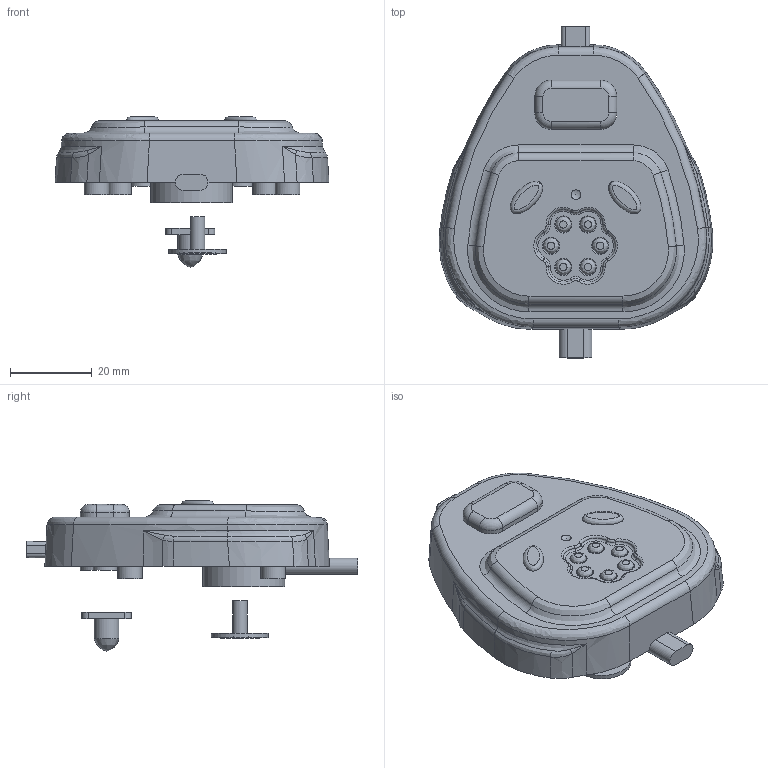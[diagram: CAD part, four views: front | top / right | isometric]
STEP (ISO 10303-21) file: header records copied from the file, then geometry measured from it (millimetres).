
FILE_DESCRIPTION(/* description */ (''),/* implementation_level */ '2;1');
FILE_NAME(/* name */ '04155_stp.stp',/* time_stamp */ '2023-04-15T14:32:02+08:00',/* author */ (''),/* organization */ (''),/* preprocessor_version */ 'ST-DEVELOPER v16',/* originating_system */ 'SIEMENS PLM Software NX 10.0',/* authorisation */ '');
FILE_SCHEMA (('AP203_CONFIGURATION_CONTROLLED_3D_DESIGN_OF_MECHANICAL_PARTS_AND_ASSEMBLIES_MIM_LF { 1 0 10303 403 2 1 2}'));
Length unit declared in the file: millimetre
Products named in the file (9): 喇叭1954; 电器元件01955; 显示屏956; 电源线957; USB插头958; 按钮2959; 按键盘960; 前盖961; 04155_stp
Assembly tree (8 placements, depth 2):
  04155_stp
    前盖961
    按键盘960
    按钮2959
    USB插头958
    电源线957
    显示屏956
    电器元件01955
    喇叭1954
Bounding box: 66.85 x 81.04 x 36.75 mm (x, y, z)
Volume: 23719.1 mm3; surface area: 19511 mm2
Topology: 19 solids, 21 shells, 439 faces, 1081 edges, 687 vertices
Faces by surface type: plane 136, bspline 118, cylinder 78, torus 60, extrusion 32, cone 14, sphere 1
Full cylindrical faces by diameter (mm): 1.6 x4, 2.5 x2, 3 x6, 3.5 x1, 3.8 x12, 6 x5, 14 x1, 20 x1
Entity records: 19558 total; most frequent: CARTESIAN_POINT 6694, ORIENTED_EDGE 1992, DIRECTION 1683, EDGE_CURVE 996, AXIS2_PLACEMENT_3D 698, VERTEX_POINT 675, EDGE_LOOP 547, ADVANCED_FACE 439
